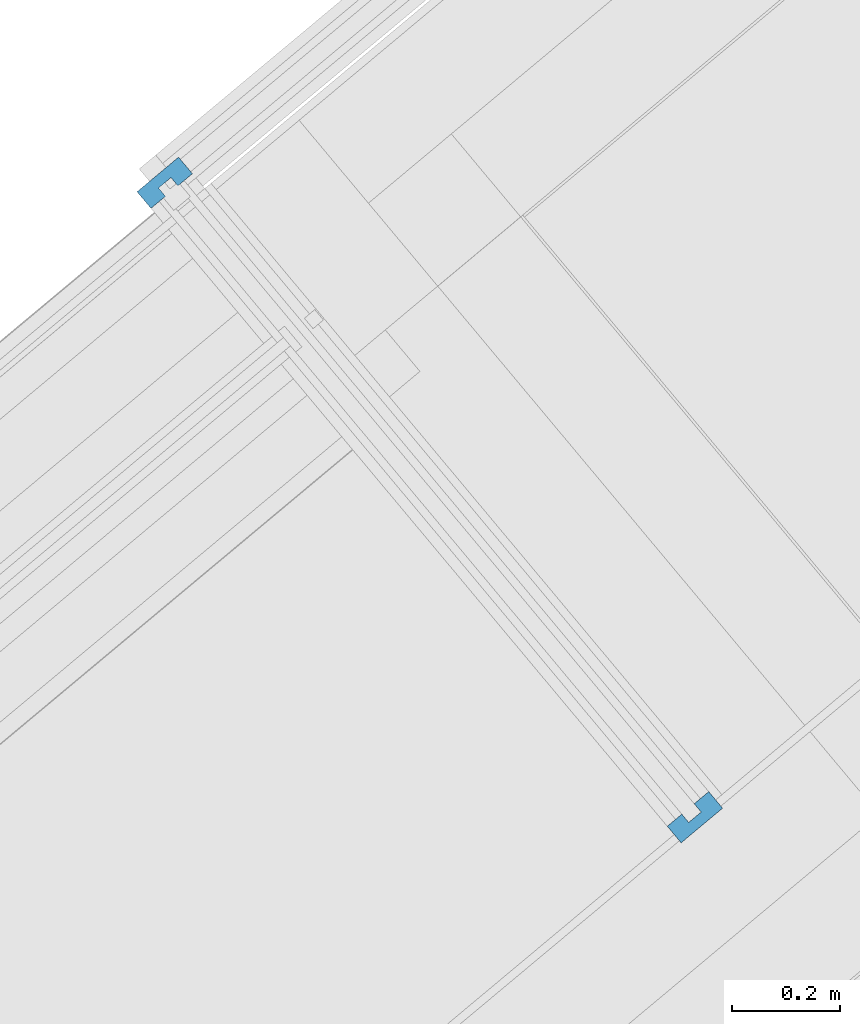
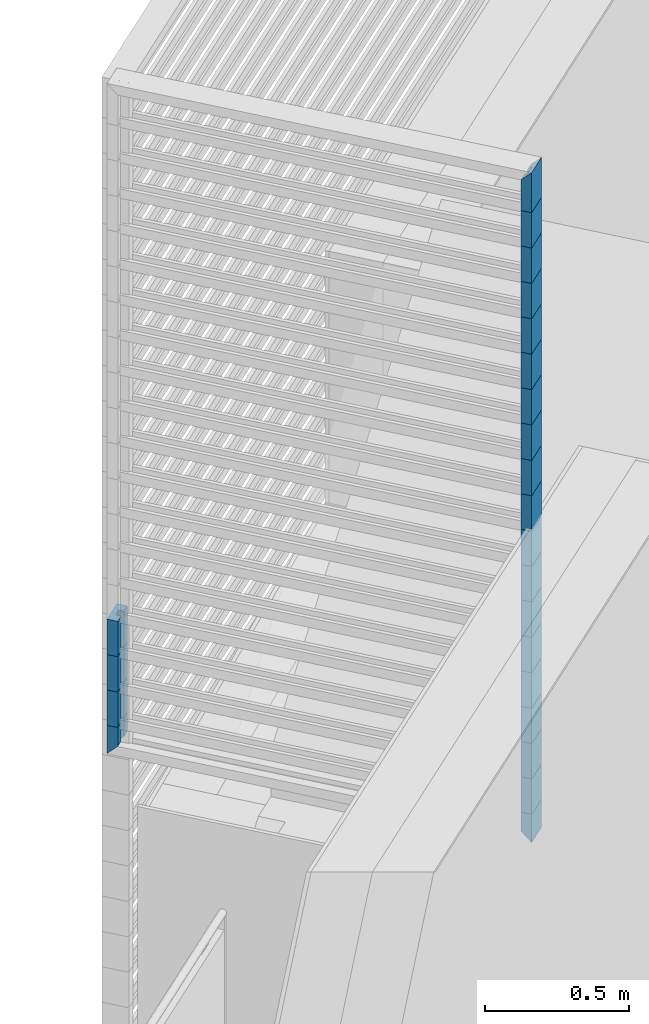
# One storey, part 37 of 47: 23 building element parts, 1 element without a shape of its own.
"""IFC4 building model written with IfcOpenShell, lengths in metres."""

from ifc_helpers import new_model, entity, si_unit, converted_unit, derived_unit, direction, frame, origin_with_axes, place, context, subcontext, project, spatial, polygons, material, type_object, element, aggregate, save


model = new_model("IFC4")

# Units and contexts
model_context = context("Model", 3, precision=1e-05, world=origin_with_axes(), true_north=direction((0.0, 1.0)))
body_context = subcontext(model_context, "Body", "Model", "MODEL_VIEW")
ifc_project = project(units=[si_unit("LENGTHUNIT", "METRE"), si_unit("AREAUNIT", "SQUARE_METRE"), si_unit("VOLUMEUNIT", "CUBIC_METRE"), converted_unit("PLANEANGLEUNIT", "DEGREE", entity("IfcPlaneAngleMeasure", 0.0174532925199), si_unit("PLANEANGLEUNIT", "RADIAN"), dimensions=[0, 0, 0, 0, 0, 0, 0]), converted_unit("TIMEUNIT", "Year", entity("IfcTimeMeasure", 31556926.0), si_unit("TIMEUNIT", "SECOND"), dimensions=[0, 0, 1, 0, 0, 0, 0]), si_unit("MASSUNIT", "GRAM", prefix="KILO"), si_unit("THERMODYNAMICTEMPERATUREUNIT", "DEGREE_CELSIUS"), si_unit("LUMINOUSINTENSITYUNIT", "LUMEN"), si_unit("ENERGYUNIT", "JOULE", prefix="MEGA"), derived_unit("THERMALCONDUCTANCEUNIT", [(si_unit("POWERUNIT", "WATT"), 1), (si_unit("LENGTHUNIT", "METRE"), -1), (si_unit("THERMODYNAMICTEMPERATUREUNIT", "KELVIN"), -1)]), derived_unit("SPECIFICHEATCAPACITYUNIT", [(si_unit("ENERGYUNIT", "JOULE"), 1), (si_unit("MASSUNIT", "GRAM", prefix="KILO"), -1), (si_unit("THERMODYNAMICTEMPERATUREUNIT", "KELVIN"), -1)]), derived_unit("MASSDENSITYUNIT", [(si_unit("MASSUNIT", "GRAM", prefix="KILO"), 1), (si_unit("VOLUMEUNIT", "CUBIC_METRE"), -1)])], contexts=[model_context])

# Site, building, storey
site_placement = place(None, frame((-0.00153261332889, -0.00661245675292, 0.0), z_axis=(0.0, 0.0, 1.0), x_axis=(1.0, 0.0, 0.0)))
site = spatial("IfcSite", under=ifc_project, at=site_placement, Name="Site", CompositionType="ELEMENT")
building_placement = place(site_placement, origin_with_axes())
building = spatial("IfcBuilding", under=site, at=building_placement, Name="Building", CompositionType="ELEMENT")
storey_placement = place(building_placement, frame((0.0, 0.0, 8.66), z_axis=(0.0, 0.0, 1.0), x_axis=(1.0, 0.0, 0.0)))
storey = spatial("IfcBuildingStorey", under=building, at=storey_placement, Name="DG2", CompositionType="ELEMENT", Elevation=8.66)

# Curtain wall, building element parts
curtain_wall_type = type_object("IfcCurtainWallType", Name="Fassadentyp", PredefinedType="NOTDEFINED")
curtain_wall_placement = place(storey_placement, frame((-3.99984616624, 22.0071436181, 1.87), z_axis=(0.0, 0.0, 1.0), x_axis=(1.0, 0.0, 0.0)))
curtain_wall = element("IfcCurtainWall", 1, at=curtain_wall_placement, inside=storey, type_object=curtain_wall_type, Name="Fassade-001", PredefinedType="NOTDEFINED")
ifc_material = material(Name="Blech")
building_element_part_1_placement = place(curtain_wall_placement, origin_with_axes())
building_element_part_1 = element("IfcBuildingElementPart", 2, at=building_element_part_1_placement, material=ifc_material, Name="Blech", PredefinedType="NOTDEFINED", context=body_context, shape_type="Tessellation", body=[
    polygons([(0.502113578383, -0.577509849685, 0.100000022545), (0.479092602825, -0.596746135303, 0.100000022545), (0.466268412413, -0.581398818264, 0.100000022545), (0.439410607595, -0.603841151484, 0.100000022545), (0.465058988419, -0.634535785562, 0.100000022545), (0.541795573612, -0.570414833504, 0.100000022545), (0.516147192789, -0.539720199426, 0.100000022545), (0.489289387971, -0.562162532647, 0.100000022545), (0.502113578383, -0.577509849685, 0.0), (0.479092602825, -0.596746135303, 0.0), (0.466268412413, -0.581398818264, 0.02), (0.439410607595, -0.603841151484, 0.02), (0.465058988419, -0.634535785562, -0.02), (0.541795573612, -0.570414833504, -0.02), (0.516147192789, -0.539720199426, 0.02), (0.489289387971, -0.562162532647, 0.02)], [[[1, 2, 3, 4, 5, 6, 7, 8]], [[2, 1, 9, 10]], [[11, 3, 2, 10]], [[3, 11, 12, 4]], [[5, 4, 12, 13]], [[6, 5, 13, 14]], [[7, 6, 14, 15]], [[16, 8, 7, 15]], [[1, 8, 16, 9]], [[9, 16, 15, 14, 13, 12, 11, 10]]], closed=True),
])
building_element_part_2_placement = place(curtain_wall_placement, origin_with_axes())
building_element_part_2 = element("IfcBuildingElementPart", 3, at=building_element_part_2_placement, material=ifc_material, Name="Blech", PredefinedType="NOTDEFINED", context=body_context, shape_type="Tessellation", body=[
    polygons([(-0.479092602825, 0.596746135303, 0.100000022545), (-0.466268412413, 0.581398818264, 0.100000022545), (-0.439410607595, 0.603841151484, 0.100000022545), (-0.465058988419, 0.634535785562, 0.100000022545), (-0.541795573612, 0.570414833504, 0.100000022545), (-0.516147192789, 0.539720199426, 0.100000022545), (-0.489289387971, 0.562162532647, 0.100000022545), (-0.502113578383, 0.577509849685, 0.100000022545), (-0.479092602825, 0.596746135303, 0.0), (-0.466268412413, 0.581398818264, 0.02), (-0.439410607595, 0.603841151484, 0.02), (-0.465058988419, 0.634535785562, -0.02), (-0.541795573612, 0.570414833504, -0.02), (-0.516147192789, 0.539720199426, 0.02), (-0.489289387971, 0.562162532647, 0.02), (-0.502113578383, 0.577509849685, 0.0)], [[[1, 2, 3, 4, 5, 6, 7, 8]], [[1, 9, 10, 2]], [[10, 11, 3, 2]], [[3, 11, 12, 4]], [[4, 12, 13, 5]], [[5, 13, 14, 6]], [[7, 6, 14, 15]], [[15, 16, 8, 7]], [[8, 16, 9, 1]], [[9, 16, 15, 14, 13, 12, 11, 10]]], closed=True),
])
building_element_part_3_placement = place(curtain_wall_placement, origin_with_axes())
building_element_part_3 = element("IfcBuildingElementPart", 4, at=building_element_part_3_placement, material=ifc_material, Name="Blech", PredefinedType="NOTDEFINED", context=body_context, shape_type="Tessellation", body=[
    polygons([(0.502113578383, -0.577509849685, 0.250000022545), (0.479092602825, -0.596746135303, 0.250000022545), (0.466268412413, -0.581398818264, 0.250000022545), (0.439410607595, -0.603841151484, 0.250000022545), (0.465058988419, -0.634535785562, 0.250000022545), (0.541795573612, -0.570414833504, 0.250000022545), (0.516147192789, -0.539720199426, 0.250000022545), (0.489289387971, -0.562162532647, 0.250000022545), (0.502113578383, -0.577509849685, 0.100000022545), (0.479092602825, -0.596746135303, 0.100000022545), (0.466268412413, -0.581398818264, 0.100000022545), (0.439410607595, -0.603841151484, 0.100000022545), (0.465058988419, -0.634535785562, 0.100000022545), (0.541795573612, -0.570414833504, 0.100000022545), (0.516147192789, -0.539720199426, 0.100000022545), (0.489289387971, -0.562162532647, 0.100000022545)], [[[1, 2, 3, 4, 5, 6, 7, 8]], [[2, 1, 9, 10]], [[11, 3, 2, 10]], [[3, 11, 12, 4]], [[13, 5, 4, 12]], [[14, 6, 5, 13]], [[15, 7, 6, 14]], [[16, 8, 7, 15]], [[1, 8, 16, 9]], [[9, 16, 15, 14, 13, 12, 11, 10]]], closed=True),
])
building_element_part_4_placement = place(curtain_wall_placement, origin_with_axes())
building_element_part_4 = element("IfcBuildingElementPart", 5, at=building_element_part_4_placement, material=ifc_material, Name="Blech", PredefinedType="NOTDEFINED", context=body_context, shape_type="Tessellation", body=[
    polygons([(-0.479092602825, 0.596746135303, 0.250000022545), (-0.466268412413, 0.581398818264, 0.250000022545), (-0.439410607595, 0.603841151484, 0.250000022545), (-0.465058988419, 0.634535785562, 0.250000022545), (-0.541795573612, 0.570414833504, 0.250000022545), (-0.516147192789, 0.539720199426, 0.250000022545), (-0.489289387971, 0.562162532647, 0.250000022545), (-0.502113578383, 0.577509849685, 0.250000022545), (-0.479092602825, 0.596746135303, 0.100000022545), (-0.466268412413, 0.581398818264, 0.100000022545), (-0.439410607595, 0.603841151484, 0.100000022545), (-0.465058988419, 0.634535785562, 0.100000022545), (-0.541795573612, 0.570414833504, 0.100000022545), (-0.516147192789, 0.539720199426, 0.100000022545), (-0.489289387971, 0.562162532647, 0.100000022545), (-0.502113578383, 0.577509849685, 0.100000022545)], [[[1, 2, 3, 4, 5, 6, 7, 8]], [[1, 9, 10, 2]], [[10, 11, 3, 2]], [[11, 12, 4, 3]], [[12, 13, 5, 4]], [[13, 14, 6, 5]], [[7, 6, 14, 15]], [[15, 16, 8, 7]], [[8, 16, 9, 1]], [[9, 16, 15, 14, 13, 12, 11, 10]]], closed=True),
])
building_element_part_5_placement = place(curtain_wall_placement, origin_with_axes())
building_element_part_5 = element("IfcBuildingElementPart", 6, at=building_element_part_5_placement, material=ifc_material, Name="Blech", PredefinedType="NOTDEFINED", context=body_context, shape_type="Tessellation", body=[
    polygons([(0.502113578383, -0.577509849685, 0.400000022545), (0.479092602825, -0.596746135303, 0.400000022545), (0.466268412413, -0.581398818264, 0.400000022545), (0.439410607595, -0.603841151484, 0.400000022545), (0.465058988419, -0.634535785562, 0.400000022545), (0.541795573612, -0.570414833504, 0.400000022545), (0.516147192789, -0.539720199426, 0.400000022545), (0.489289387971, -0.562162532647, 0.400000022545), (0.502113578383, -0.577509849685, 0.250000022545), (0.479092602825, -0.596746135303, 0.250000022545), (0.466268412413, -0.581398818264, 0.250000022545), (0.439410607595, -0.603841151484, 0.250000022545), (0.465058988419, -0.634535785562, 0.250000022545), (0.541795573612, -0.570414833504, 0.250000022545), (0.516147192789, -0.539720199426, 0.250000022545), (0.489289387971, -0.562162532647, 0.250000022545)], [[[1, 2, 3, 4, 5, 6, 7, 8]], [[2, 1, 9, 10]], [[11, 3, 2, 10]], [[3, 11, 12, 4]], [[13, 5, 4, 12]], [[14, 6, 5, 13]], [[15, 7, 6, 14]], [[16, 8, 7, 15]], [[1, 8, 16, 9]], [[9, 16, 15, 14, 13, 12, 11, 10]]], closed=True),
])
building_element_part_6_placement = place(curtain_wall_placement, origin_with_axes())
building_element_part_6 = element("IfcBuildingElementPart", 7, at=building_element_part_6_placement, material=ifc_material, Name="Blech", PredefinedType="NOTDEFINED", context=body_context, shape_type="Tessellation", body=[
    polygons([(-0.479092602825, 0.596746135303, 0.400000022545), (-0.466268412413, 0.581398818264, 0.400000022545), (-0.439410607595, 0.603841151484, 0.400000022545), (-0.465058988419, 0.634535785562, 0.400000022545), (-0.541795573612, 0.570414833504, 0.400000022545), (-0.516147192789, 0.539720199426, 0.400000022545), (-0.489289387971, 0.562162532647, 0.400000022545), (-0.502113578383, 0.577509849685, 0.400000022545), (-0.479092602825, 0.596746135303, 0.250000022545), (-0.466268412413, 0.581398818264, 0.250000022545), (-0.439410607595, 0.603841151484, 0.250000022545), (-0.465058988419, 0.634535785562, 0.250000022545), (-0.541795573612, 0.570414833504, 0.250000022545), (-0.516147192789, 0.539720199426, 0.250000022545), (-0.489289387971, 0.562162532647, 0.250000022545), (-0.502113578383, 0.577509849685, 0.250000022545)], [[[1, 2, 3, 4, 5, 6, 7, 8]], [[1, 9, 10, 2]], [[10, 11, 3, 2]], [[11, 12, 4, 3]], [[12, 13, 5, 4]], [[13, 14, 6, 5]], [[7, 6, 14, 15]], [[15, 16, 8, 7]], [[8, 16, 9, 1]], [[9, 16, 15, 14, 13, 12, 11, 10]]], closed=True),
])
building_element_part_7_placement = place(curtain_wall_placement, origin_with_axes())
building_element_part_7 = element("IfcBuildingElementPart", 8, at=building_element_part_7_placement, material=ifc_material, Name="Blech", PredefinedType="NOTDEFINED", context=body_context, shape_type="Tessellation", body=[
    polygons([(0.502113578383, -0.577509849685, 0.550000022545), (0.479092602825, -0.596746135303, 0.550000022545), (0.466268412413, -0.581398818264, 0.550000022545), (0.439410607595, -0.603841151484, 0.550000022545), (0.465058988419, -0.634535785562, 0.550000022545), (0.541795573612, -0.570414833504, 0.550000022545), (0.516147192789, -0.539720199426, 0.550000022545), (0.489289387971, -0.562162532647, 0.550000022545), (0.502113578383, -0.577509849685, 0.400000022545), (0.479092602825, -0.596746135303, 0.400000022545), (0.466268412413, -0.581398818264, 0.400000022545), (0.439410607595, -0.603841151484, 0.400000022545), (0.465058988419, -0.634535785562, 0.400000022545), (0.541795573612, -0.570414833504, 0.400000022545), (0.516147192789, -0.539720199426, 0.400000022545), (0.489289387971, -0.562162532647, 0.400000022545)], [[[1, 2, 3, 4, 5, 6, 7, 8]], [[2, 1, 9, 10]], [[11, 3, 2, 10]], [[3, 11, 12, 4]], [[13, 5, 4, 12]], [[14, 6, 5, 13]], [[15, 7, 6, 14]], [[16, 8, 7, 15]], [[1, 8, 16, 9]], [[9, 16, 15, 14, 13, 12, 11, 10]]], closed=True),
])
building_element_part_8_placement = place(curtain_wall_placement, origin_with_axes())
building_element_part_8 = element("IfcBuildingElementPart", 9, at=building_element_part_8_placement, material=ifc_material, Name="Blech", PredefinedType="NOTDEFINED", context=body_context, shape_type="Tessellation", body=[
    polygons([(-0.479092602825, 0.596746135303, 0.550000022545), (-0.466268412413, 0.581398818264, 0.550000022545), (-0.439410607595, 0.603841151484, 0.550000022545), (-0.465058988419, 0.634535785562, 0.550000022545), (-0.541795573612, 0.570414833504, 0.550000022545), (-0.516147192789, 0.539720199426, 0.550000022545), (-0.489289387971, 0.562162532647, 0.550000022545), (-0.502113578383, 0.577509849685, 0.550000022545), (-0.479092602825, 0.596746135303, 0.400000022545), (-0.466268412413, 0.581398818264, 0.400000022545), (-0.439410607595, 0.603841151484, 0.400000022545), (-0.465058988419, 0.634535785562, 0.400000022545), (-0.541795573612, 0.570414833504, 0.400000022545), (-0.516147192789, 0.539720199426, 0.400000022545), (-0.489289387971, 0.562162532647, 0.400000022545), (-0.502113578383, 0.577509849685, 0.400000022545)], [[[1, 2, 3, 4, 5, 6, 7, 8]], [[1, 9, 10, 2]], [[10, 11, 3, 2]], [[11, 12, 4, 3]], [[12, 13, 5, 4]], [[13, 14, 6, 5]], [[7, 6, 14, 15]], [[15, 16, 8, 7]], [[8, 16, 9, 1]], [[9, 16, 15, 14, 13, 12, 11, 10]]], closed=True),
])
building_element_part_9_placement = place(curtain_wall_placement, origin_with_axes())
building_element_part_9 = element("IfcBuildingElementPart", 10, at=building_element_part_9_placement, material=ifc_material, Name="Blech", PredefinedType="NOTDEFINED", context=body_context, shape_type="Tessellation", body=[
    polygons([(0.502113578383, -0.577509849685, 0.700000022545), (0.479092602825, -0.596746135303, 0.700000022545), (0.466268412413, -0.581398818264, 0.700000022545), (0.439410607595, -0.603841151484, 0.700000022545), (0.465058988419, -0.634535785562, 0.700000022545), (0.541795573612, -0.570414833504, 0.700000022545), (0.516147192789, -0.539720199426, 0.700000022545), (0.489289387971, -0.562162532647, 0.700000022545), (0.502113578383, -0.577509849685, 0.550000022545), (0.479092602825, -0.596746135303, 0.550000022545), (0.466268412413, -0.581398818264, 0.550000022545), (0.439410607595, -0.603841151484, 0.550000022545), (0.465058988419, -0.634535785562, 0.550000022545), (0.541795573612, -0.570414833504, 0.550000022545), (0.516147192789, -0.539720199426, 0.550000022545), (0.489289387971, -0.562162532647, 0.550000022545)], [[[1, 2, 3, 4, 5, 6, 7, 8]], [[2, 1, 9, 10]], [[11, 3, 2, 10]], [[3, 11, 12, 4]], [[13, 5, 4, 12]], [[14, 6, 5, 13]], [[15, 7, 6, 14]], [[16, 8, 7, 15]], [[1, 8, 16, 9]], [[9, 16, 15, 14, 13, 12, 11, 10]]], closed=True),
])
building_element_part_10_placement = place(curtain_wall_placement, origin_with_axes())
building_element_part_10 = element("IfcBuildingElementPart", 11, at=building_element_part_10_placement, material=ifc_material, Name="Blech", PredefinedType="NOTDEFINED", context=body_context, shape_type="Tessellation", body=[
    polygons([(0.502113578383, -0.577509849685, 0.850000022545), (0.479092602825, -0.596746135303, 0.850000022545), (0.466268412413, -0.581398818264, 0.850000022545), (0.439410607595, -0.603841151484, 0.850000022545), (0.465058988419, -0.634535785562, 0.850000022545), (0.541795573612, -0.570414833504, 0.850000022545), (0.516147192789, -0.539720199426, 0.850000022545), (0.489289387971, -0.562162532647, 0.850000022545), (0.502113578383, -0.577509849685, 0.700000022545), (0.479092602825, -0.596746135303, 0.700000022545), (0.466268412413, -0.581398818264, 0.700000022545), (0.439410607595, -0.603841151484, 0.700000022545), (0.465058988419, -0.634535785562, 0.700000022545), (0.541795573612, -0.570414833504, 0.700000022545), (0.516147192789, -0.539720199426, 0.700000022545), (0.489289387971, -0.562162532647, 0.700000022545)], [[[1, 2, 3, 4, 5, 6, 7, 8]], [[2, 1, 9, 10]], [[11, 3, 2, 10]], [[3, 11, 12, 4]], [[13, 5, 4, 12]], [[14, 6, 5, 13]], [[15, 7, 6, 14]], [[16, 8, 7, 15]], [[1, 8, 16, 9]], [[9, 16, 15, 14, 13, 12, 11, 10]]], closed=True),
])
building_element_part_11_placement = place(curtain_wall_placement, origin_with_axes())
building_element_part_11 = element("IfcBuildingElementPart", 12, at=building_element_part_11_placement, material=ifc_material, Name="Blech", PredefinedType="NOTDEFINED", context=body_context, shape_type="Tessellation", body=[
    polygons([(0.502113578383, -0.577509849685, 1.00000002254), (0.479092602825, -0.596746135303, 1.00000002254), (0.466268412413, -0.581398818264, 1.00000002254), (0.439410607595, -0.603841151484, 1.00000002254), (0.465058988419, -0.634535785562, 1.00000002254), (0.541795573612, -0.570414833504, 1.00000002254), (0.516147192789, -0.539720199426, 1.00000002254), (0.489289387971, -0.562162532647, 1.00000002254), (0.502113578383, -0.577509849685, 0.850000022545), (0.479092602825, -0.596746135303, 0.850000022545), (0.466268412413, -0.581398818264, 0.850000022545), (0.439410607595, -0.603841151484, 0.850000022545), (0.465058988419, -0.634535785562, 0.850000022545), (0.541795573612, -0.570414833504, 0.850000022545), (0.516147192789, -0.539720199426, 0.850000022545), (0.489289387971, -0.562162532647, 0.850000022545)], [[[1, 2, 3, 4, 5, 6, 7, 8]], [[2, 1, 9, 10]], [[11, 3, 2, 10]], [[3, 11, 12, 4]], [[13, 5, 4, 12]], [[14, 6, 5, 13]], [[15, 7, 6, 14]], [[16, 8, 7, 15]], [[1, 8, 16, 9]], [[9, 16, 15, 14, 13, 12, 11, 10]]], closed=True),
])
building_element_part_12_placement = place(curtain_wall_placement, origin_with_axes())
building_element_part_12 = element("IfcBuildingElementPart", 13, at=building_element_part_12_placement, material=ifc_material, Name="Blech", PredefinedType="NOTDEFINED", context=body_context, shape_type="Tessellation", body=[
    polygons([(0.502113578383, -0.577509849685, 1.15000002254), (0.479092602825, -0.596746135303, 1.15000002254), (0.466268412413, -0.581398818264, 1.15000002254), (0.439410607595, -0.603841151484, 1.15000002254), (0.465058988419, -0.634535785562, 1.15000002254), (0.541795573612, -0.570414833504, 1.15000002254), (0.516147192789, -0.539720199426, 1.15000002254), (0.489289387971, -0.562162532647, 1.15000002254), (0.502113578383, -0.577509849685, 1.00000002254), (0.479092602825, -0.596746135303, 1.00000002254), (0.466268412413, -0.581398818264, 1.00000002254), (0.439410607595, -0.603841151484, 1.00000002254), (0.465058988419, -0.634535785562, 1.00000002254), (0.541795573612, -0.570414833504, 1.00000002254), (0.516147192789, -0.539720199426, 1.00000002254), (0.489289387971, -0.562162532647, 1.00000002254)], [[[1, 2, 3, 4, 5, 6, 7, 8]], [[2, 1, 9, 10]], [[11, 3, 2, 10]], [[3, 11, 12, 4]], [[13, 5, 4, 12]], [[14, 6, 5, 13]], [[15, 7, 6, 14]], [[16, 8, 7, 15]], [[1, 8, 16, 9]], [[9, 16, 15, 14, 13, 12, 11, 10]]], closed=True),
])
building_element_part_13_placement = place(curtain_wall_placement, origin_with_axes())
building_element_part_13 = element("IfcBuildingElementPart", 14, at=building_element_part_13_placement, material=ifc_material, Name="Blech", PredefinedType="NOTDEFINED", context=body_context, shape_type="Tessellation", body=[
    polygons([(0.502113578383, -0.577509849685, 1.30000002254), (0.479092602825, -0.596746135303, 1.30000002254), (0.466268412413, -0.581398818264, 1.30000002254), (0.439410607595, -0.603841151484, 1.30000002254), (0.465058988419, -0.634535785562, 1.30000002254), (0.541795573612, -0.570414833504, 1.30000002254), (0.516147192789, -0.539720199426, 1.30000002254), (0.489289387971, -0.562162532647, 1.30000002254), (0.502113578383, -0.577509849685, 1.15000002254), (0.479092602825, -0.596746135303, 1.15000002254), (0.466268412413, -0.581398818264, 1.15000002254), (0.439410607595, -0.603841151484, 1.15000002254), (0.465058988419, -0.634535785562, 1.15000002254), (0.541795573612, -0.570414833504, 1.15000002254), (0.516147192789, -0.539720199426, 1.15000002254), (0.489289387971, -0.562162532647, 1.15000002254)], [[[1, 2, 3, 4, 5, 6, 7, 8]], [[2, 1, 9, 10]], [[11, 3, 2, 10]], [[3, 11, 12, 4]], [[13, 5, 4, 12]], [[14, 6, 5, 13]], [[15, 7, 6, 14]], [[16, 8, 7, 15]], [[1, 8, 16, 9]], [[9, 16, 15, 14, 13, 12, 11, 10]]], closed=True),
])
building_element_part_14_placement = place(curtain_wall_placement, origin_with_axes())
building_element_part_14 = element("IfcBuildingElementPart", 15, at=building_element_part_14_placement, material=ifc_material, Name="Blech", PredefinedType="NOTDEFINED", context=body_context, shape_type="Tessellation", body=[
    polygons([(0.502113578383, -0.577509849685, 1.45000002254), (0.479092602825, -0.596746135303, 1.45000002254), (0.466268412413, -0.581398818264, 1.45000002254), (0.439410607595, -0.603841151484, 1.45000002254), (0.465058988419, -0.634535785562, 1.45000002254), (0.541795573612, -0.570414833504, 1.45000002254), (0.516147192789, -0.539720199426, 1.45000002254), (0.489289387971, -0.562162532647, 1.45000002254), (0.502113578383, -0.577509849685, 1.30000002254), (0.479092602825, -0.596746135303, 1.30000002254), (0.466268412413, -0.581398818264, 1.30000002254), (0.439410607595, -0.603841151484, 1.30000002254), (0.465058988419, -0.634535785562, 1.30000002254), (0.541795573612, -0.570414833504, 1.30000002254), (0.516147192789, -0.539720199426, 1.30000002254), (0.489289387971, -0.562162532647, 1.30000002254)], [[[1, 2, 3, 4, 5, 6, 7, 8]], [[2, 1, 9, 10]], [[11, 3, 2, 10]], [[3, 11, 12, 4]], [[13, 5, 4, 12]], [[14, 6, 5, 13]], [[15, 7, 6, 14]], [[16, 8, 7, 15]], [[1, 8, 16, 9]], [[9, 16, 15, 14, 13, 12, 11, 10]]], closed=True),
])
building_element_part_15_placement = place(curtain_wall_placement, origin_with_axes())
building_element_part_15 = element("IfcBuildingElementPart", 16, at=building_element_part_15_placement, material=ifc_material, Name="Blech", PredefinedType="NOTDEFINED", context=body_context, shape_type="Tessellation", body=[
    polygons([(0.502113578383, -0.577509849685, 1.60000002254), (0.479092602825, -0.596746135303, 1.60000002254), (0.466268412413, -0.581398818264, 1.60000002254), (0.439410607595, -0.603841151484, 1.60000002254), (0.465058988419, -0.634535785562, 1.60000002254), (0.541795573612, -0.570414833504, 1.60000002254), (0.516147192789, -0.539720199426, 1.60000002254), (0.489289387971, -0.562162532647, 1.60000002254), (0.502113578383, -0.577509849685, 1.45000002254), (0.479092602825, -0.596746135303, 1.45000002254), (0.466268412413, -0.581398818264, 1.45000002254), (0.439410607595, -0.603841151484, 1.45000002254), (0.465058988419, -0.634535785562, 1.45000002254), (0.541795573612, -0.570414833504, 1.45000002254), (0.516147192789, -0.539720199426, 1.45000002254), (0.489289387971, -0.562162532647, 1.45000002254)], [[[1, 2, 3, 4, 5, 6, 7, 8]], [[2, 1, 9, 10]], [[11, 3, 2, 10]], [[3, 11, 12, 4]], [[13, 5, 4, 12]], [[14, 6, 5, 13]], [[15, 7, 6, 14]], [[16, 8, 7, 15]], [[1, 8, 16, 9]], [[9, 16, 15, 14, 13, 12, 11, 10]]], closed=True),
])
building_element_part_16_placement = place(curtain_wall_placement, origin_with_axes())
building_element_part_16 = element("IfcBuildingElementPart", 17, at=building_element_part_16_placement, material=ifc_material, Name="Blech", PredefinedType="NOTDEFINED", context=body_context, shape_type="Tessellation", body=[
    polygons([(0.502113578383, -0.577509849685, 1.75000002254), (0.479092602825, -0.596746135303, 1.75000002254), (0.466268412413, -0.581398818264, 1.75000002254), (0.439410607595, -0.603841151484, 1.75000002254), (0.465058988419, -0.634535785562, 1.75000002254), (0.541795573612, -0.570414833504, 1.75000002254), (0.516147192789, -0.539720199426, 1.75000002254), (0.489289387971, -0.562162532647, 1.75000002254), (0.502113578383, -0.577509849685, 1.60000002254), (0.479092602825, -0.596746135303, 1.60000002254), (0.466268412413, -0.581398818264, 1.60000002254), (0.439410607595, -0.603841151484, 1.60000002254), (0.465058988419, -0.634535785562, 1.60000002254), (0.541795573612, -0.570414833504, 1.60000002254), (0.516147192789, -0.539720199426, 1.60000002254), (0.489289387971, -0.562162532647, 1.60000002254)], [[[1, 2, 3, 4, 5, 6, 7, 8]], [[2, 1, 9, 10]], [[11, 3, 2, 10]], [[3, 11, 12, 4]], [[13, 5, 4, 12]], [[14, 6, 5, 13]], [[15, 7, 6, 14]], [[16, 8, 7, 15]], [[1, 8, 16, 9]], [[9, 16, 15, 14, 13, 12, 11, 10]]], closed=True),
])
building_element_part_17_placement = place(curtain_wall_placement, origin_with_axes())
building_element_part_17 = element("IfcBuildingElementPart", 18, at=building_element_part_17_placement, material=ifc_material, Name="Blech", PredefinedType="NOTDEFINED", context=body_context, shape_type="Tessellation", body=[
    polygons([(0.502113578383, -0.577509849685, 1.90000002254), (0.479092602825, -0.596746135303, 1.90000002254), (0.466268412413, -0.581398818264, 1.90000002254), (0.439410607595, -0.603841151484, 1.90000002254), (0.465058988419, -0.634535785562, 1.90000002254), (0.541795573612, -0.570414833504, 1.90000002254), (0.516147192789, -0.539720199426, 1.90000002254), (0.489289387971, -0.562162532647, 1.90000002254), (0.502113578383, -0.577509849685, 1.75000002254), (0.479092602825, -0.596746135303, 1.75000002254), (0.466268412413, -0.581398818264, 1.75000002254), (0.439410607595, -0.603841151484, 1.75000002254), (0.465058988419, -0.634535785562, 1.75000002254), (0.541795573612, -0.570414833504, 1.75000002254), (0.516147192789, -0.539720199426, 1.75000002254), (0.489289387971, -0.562162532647, 1.75000002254)], [[[1, 2, 3, 4, 5, 6, 7, 8]], [[2, 1, 9, 10]], [[11, 3, 2, 10]], [[3, 11, 12, 4]], [[13, 5, 4, 12]], [[14, 6, 5, 13]], [[15, 7, 6, 14]], [[16, 8, 7, 15]], [[1, 8, 16, 9]], [[9, 16, 15, 14, 13, 12, 11, 10]]], closed=True),
])
building_element_part_18_placement = place(curtain_wall_placement, origin_with_axes())
building_element_part_18 = element("IfcBuildingElementPart", 19, at=building_element_part_18_placement, material=ifc_material, Name="Blech", PredefinedType="NOTDEFINED", context=body_context, shape_type="Tessellation", body=[
    polygons([(0.502113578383, -0.577509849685, 2.05000002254), (0.479092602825, -0.596746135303, 2.05000002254), (0.466268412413, -0.581398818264, 2.05000002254), (0.439410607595, -0.603841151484, 2.05000002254), (0.465058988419, -0.634535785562, 2.05000002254), (0.541795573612, -0.570414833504, 2.05000002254), (0.516147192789, -0.539720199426, 2.05000002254), (0.489289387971, -0.562162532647, 2.05000002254), (0.502113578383, -0.577509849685, 1.90000002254), (0.479092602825, -0.596746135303, 1.90000002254), (0.466268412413, -0.581398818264, 1.90000002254), (0.439410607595, -0.603841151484, 1.90000002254), (0.465058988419, -0.634535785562, 1.90000002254), (0.541795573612, -0.570414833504, 1.90000002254), (0.516147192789, -0.539720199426, 1.90000002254), (0.489289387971, -0.562162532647, 1.90000002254)], [[[1, 2, 3, 4, 5, 6, 7, 8]], [[2, 1, 9, 10]], [[11, 3, 2, 10]], [[3, 11, 12, 4]], [[13, 5, 4, 12]], [[14, 6, 5, 13]], [[15, 7, 6, 14]], [[16, 8, 7, 15]], [[1, 8, 16, 9]], [[9, 16, 15, 14, 13, 12, 11, 10]]], closed=True),
])
building_element_part_19_placement = place(curtain_wall_placement, origin_with_axes())
building_element_part_19 = element("IfcBuildingElementPart", 20, at=building_element_part_19_placement, material=ifc_material, Name="Blech", PredefinedType="NOTDEFINED", context=body_context, shape_type="Tessellation", body=[
    polygons([(0.502113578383, -0.577509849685, 2.20000002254), (0.479092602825, -0.596746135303, 2.20000002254), (0.466268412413, -0.581398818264, 2.20000002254), (0.439410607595, -0.603841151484, 2.20000002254), (0.465058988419, -0.634535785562, 2.20000002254), (0.541795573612, -0.570414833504, 2.20000002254), (0.516147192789, -0.539720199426, 2.20000002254), (0.489289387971, -0.562162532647, 2.20000002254), (0.502113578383, -0.577509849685, 2.05000002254), (0.479092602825, -0.596746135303, 2.05000002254), (0.466268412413, -0.581398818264, 2.05000002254), (0.439410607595, -0.603841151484, 2.05000002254), (0.465058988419, -0.634535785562, 2.05000002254), (0.541795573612, -0.570414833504, 2.05000002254), (0.516147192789, -0.539720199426, 2.05000002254), (0.489289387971, -0.562162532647, 2.05000002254)], [[[1, 2, 3, 4, 5, 6, 7, 8]], [[2, 1, 9, 10]], [[11, 3, 2, 10]], [[3, 11, 12, 4]], [[13, 5, 4, 12]], [[14, 6, 5, 13]], [[15, 7, 6, 14]], [[16, 8, 7, 15]], [[1, 8, 16, 9]], [[9, 16, 15, 14, 13, 12, 11, 10]]], closed=True),
])
building_element_part_20_placement = place(curtain_wall_placement, origin_with_axes())
building_element_part_20 = element("IfcBuildingElementPart", 21, at=building_element_part_20_placement, material=ifc_material, Name="Blech", PredefinedType="NOTDEFINED", context=body_context, shape_type="Tessellation", body=[
    polygons([(0.502113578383, -0.577509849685, 2.35000002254), (0.479092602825, -0.596746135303, 2.35000002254), (0.466268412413, -0.581398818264, 2.35000002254), (0.439410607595, -0.603841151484, 2.35000002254), (0.465058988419, -0.634535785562, 2.35000002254), (0.541795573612, -0.570414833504, 2.35000002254), (0.516147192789, -0.539720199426, 2.35000002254), (0.489289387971, -0.562162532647, 2.35000002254), (0.502113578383, -0.577509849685, 2.20000002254), (0.479092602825, -0.596746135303, 2.20000002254), (0.466268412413, -0.581398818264, 2.20000002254), (0.439410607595, -0.603841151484, 2.20000002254), (0.465058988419, -0.634535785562, 2.20000002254), (0.541795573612, -0.570414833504, 2.20000002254), (0.516147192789, -0.539720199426, 2.20000002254), (0.489289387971, -0.562162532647, 2.20000002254)], [[[1, 2, 3, 4, 5, 6, 7, 8]], [[2, 1, 9, 10]], [[11, 3, 2, 10]], [[3, 11, 12, 4]], [[13, 5, 4, 12]], [[14, 6, 5, 13]], [[15, 7, 6, 14]], [[16, 8, 7, 15]], [[1, 8, 16, 9]], [[9, 16, 15, 14, 13, 12, 11, 10]]], closed=True),
])
building_element_part_21_placement = place(curtain_wall_placement, origin_with_axes())
building_element_part_21 = element("IfcBuildingElementPart", 22, at=building_element_part_21_placement, material=ifc_material, Name="Blech", PredefinedType="NOTDEFINED", context=body_context, shape_type="Tessellation", body=[
    polygons([(0.502113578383, -0.577509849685, 2.50000002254), (0.479092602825, -0.596746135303, 2.50000002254), (0.466268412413, -0.581398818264, 2.50000002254), (0.439410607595, -0.603841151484, 2.50000002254), (0.465058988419, -0.634535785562, 2.50000002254), (0.541795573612, -0.570414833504, 2.50000002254), (0.516147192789, -0.539720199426, 2.50000002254), (0.489289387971, -0.562162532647, 2.50000002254), (0.502113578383, -0.577509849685, 2.35000002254), (0.479092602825, -0.596746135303, 2.35000002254), (0.466268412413, -0.581398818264, 2.35000002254), (0.439410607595, -0.603841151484, 2.35000002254), (0.465058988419, -0.634535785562, 2.35000002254), (0.541795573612, -0.570414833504, 2.35000002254), (0.516147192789, -0.539720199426, 2.35000002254), (0.489289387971, -0.562162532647, 2.35000002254)], [[[1, 2, 3, 4, 5, 6, 7, 8]], [[2, 1, 9, 10]], [[11, 3, 2, 10]], [[3, 11, 12, 4]], [[13, 5, 4, 12]], [[14, 6, 5, 13]], [[15, 7, 6, 14]], [[16, 8, 7, 15]], [[1, 8, 16, 9]], [[9, 16, 15, 14, 13, 12, 11, 10]]], closed=True),
])
building_element_part_22_placement = place(curtain_wall_placement, origin_with_axes())
building_element_part_22 = element("IfcBuildingElementPart", 23, at=building_element_part_22_placement, material=ifc_material, Name="Blech", PredefinedType="NOTDEFINED", context=body_context, shape_type="Tessellation", body=[
    polygons([(0.502113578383, -0.577509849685, 2.65000002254), (0.479092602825, -0.596746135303, 2.65000002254), (0.466268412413, -0.581398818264, 2.65000002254), (0.439410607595, -0.603841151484, 2.65000002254), (0.465058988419, -0.634535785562, 2.65000002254), (0.541795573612, -0.570414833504, 2.65000002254), (0.516147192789, -0.539720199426, 2.65000002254), (0.489289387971, -0.562162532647, 2.65000002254), (0.502113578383, -0.577509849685, 2.50000002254), (0.479092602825, -0.596746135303, 2.50000002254), (0.466268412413, -0.581398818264, 2.50000002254), (0.439410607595, -0.603841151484, 2.50000002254), (0.465058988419, -0.634535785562, 2.50000002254), (0.541795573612, -0.570414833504, 2.50000002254), (0.516147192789, -0.539720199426, 2.50000002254), (0.489289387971, -0.562162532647, 2.50000002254)], [[[1, 2, 3, 4, 5, 6, 7, 8]], [[2, 1, 9, 10]], [[11, 3, 2, 10]], [[3, 11, 12, 4]], [[13, 5, 4, 12]], [[14, 6, 5, 13]], [[15, 7, 6, 14]], [[16, 8, 7, 15]], [[1, 8, 16, 9]], [[9, 16, 15, 14, 13, 12, 11, 10]]], closed=True),
])
building_element_part_23_placement = place(curtain_wall_placement, origin_with_axes())
building_element_part_23 = element("IfcBuildingElementPart", 24, at=building_element_part_23_placement, material=ifc_material, Name="Blech", PredefinedType="NOTDEFINED", context=body_context, shape_type="Tessellation", body=[
    polygons([(0.502113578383, -0.577509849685, 2.8000000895), (0.479092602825, -0.596746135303, 2.8000000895), (0.466268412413, -0.581398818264, 2.7800000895), (0.439410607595, -0.603841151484, 2.7800000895), (0.465058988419, -0.634535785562, 2.8200000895), (0.541795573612, -0.570414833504, 2.8200000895), (0.516147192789, -0.539720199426, 2.7800000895), (0.489289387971, -0.562162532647, 2.7800000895), (0.502113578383, -0.577509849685, 2.65000002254), (0.479092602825, -0.596746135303, 2.65000002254), (0.466268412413, -0.581398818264, 2.65000002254), (0.439410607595, -0.603841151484, 2.65000002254), (0.465058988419, -0.634535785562, 2.65000002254), (0.541795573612, -0.570414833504, 2.65000002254), (0.516147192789, -0.539720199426, 2.65000002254), (0.489289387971, -0.562162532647, 2.65000002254)], [[[1, 2, 3, 4, 5, 6, 7, 8]], [[2, 1, 9, 10]], [[11, 3, 2, 10]], [[3, 11, 12, 4]], [[13, 5, 4, 12]], [[14, 6, 5, 13]], [[15, 7, 6, 14]], [[16, 8, 7, 15]], [[1, 8, 16, 9]], [[9, 16, 15, 14, 13, 12, 11, 10]]], closed=True),
])
aggregate(curtain_wall, [building_element_part_1, building_element_part_2, building_element_part_3, building_element_part_4, building_element_part_5, building_element_part_6, building_element_part_7, building_element_part_8, building_element_part_9, building_element_part_10, building_element_part_11, building_element_part_12, building_element_part_13, building_element_part_14, building_element_part_15, building_element_part_16, building_element_part_17, building_element_part_18, building_element_part_19, building_element_part_20, building_element_part_21, building_element_part_22, building_element_part_23])

save(model, "model.ifc")
